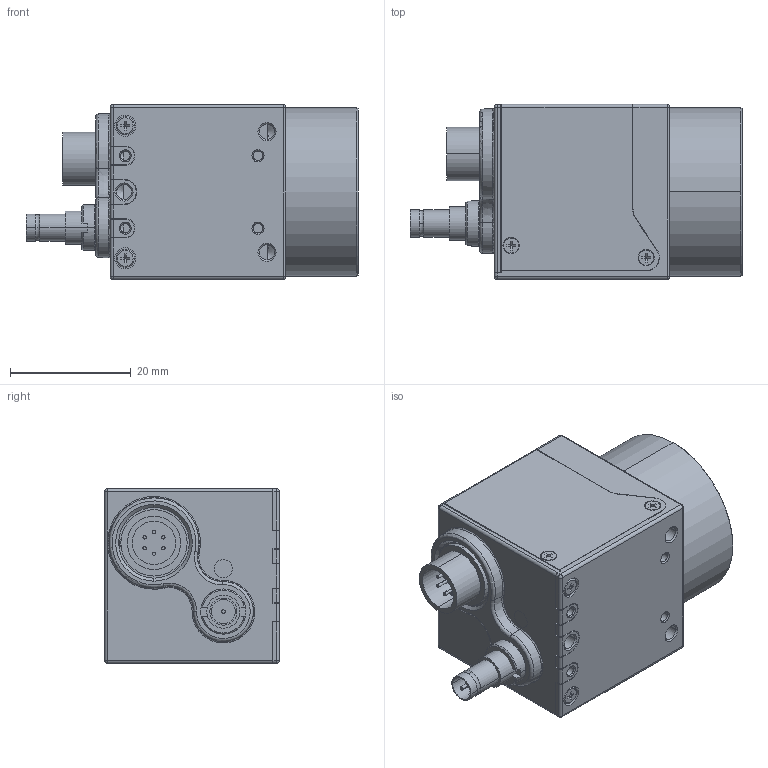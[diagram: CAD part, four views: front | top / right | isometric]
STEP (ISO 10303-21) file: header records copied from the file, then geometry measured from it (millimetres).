
FILE_DESCRIPTION((''),'2;1');
FILE_NAME('MXP-ASSY--01_ASM','2018-07-20T',('Dongwoo'),(''),'CREO PARAMETRIC BY PTC INC, 2016130','CREO PARAMETRIC BY PTC INC, 2016130','');
FILE_SCHEMA(('CONFIG_CONTROL_DESIGN'));
Length unit declared in the file: inch
Products named in the file (15): MCXP-BASEBODY-C_57; MCXP-GLASS-COVER_13; MXP-BACK-DIN_31; MVU-00-09-00-00_1; HR10A_7R_6P_1; HD-BNC-AMPHENOL_034-1028_1; RECEPTACLE-75-NUTS_1; CH_M2_L3_ZNB_1; MXP-BACK-MODULE-DIN_ASM_7_ASM; M1_6-L2_10; GLASS-18X15_1; M2_L3_2; USB3_0-TOP-COVER_21; MXP-DIN_BNC_ASM_58_ASM; MXP-ASSY--01_ASM
Assembly tree (22 placements, depth 4):
  MXP-ASSY--01_ASM
    MXP-DIN_BNC_ASM_58_ASM
      MCXP-BASEBODY-C_57
      MCXP-GLASS-COVER_13
      MXP-BACK-MODULE-DIN_ASM_7_ASM
        MXP-BACK-DIN_31
        MVU-00-09-00-00_1
        HR10A_7R_6P_1
        HD-BNC-AMPHENOL_034-1028_1
        RECEPTACLE-75-NUTS_1
        CH_M2_L3_ZNB_1
      M1_6-L2_10  x4
      GLASS-18X15_1
      M2_L3_2  x6
      USB3_0-TOP-COVER_21
Bounding box: 55.03 x 29 x 29 mm (x, y, z)
Volume: 30484.4 mm3; surface area: 19312 mm2
Topology: 20 solids, 45 shells, 1391 faces, 3510 edges, 2254 vertices
Faces by surface type: plane 634, cylinder 513, cone 118, bspline 69, torus 53, sphere 4
Entity records: 41011 total; most frequent: CARTESIAN_POINT 15386, DIRECTION 5399, ORIENTED_EDGE 5182, EDGE_CURVE 2635, AXIS2_PLACEMENT_3D 2040, VERTEX_POINT 1726, VECTOR 1319, LINE 1319
